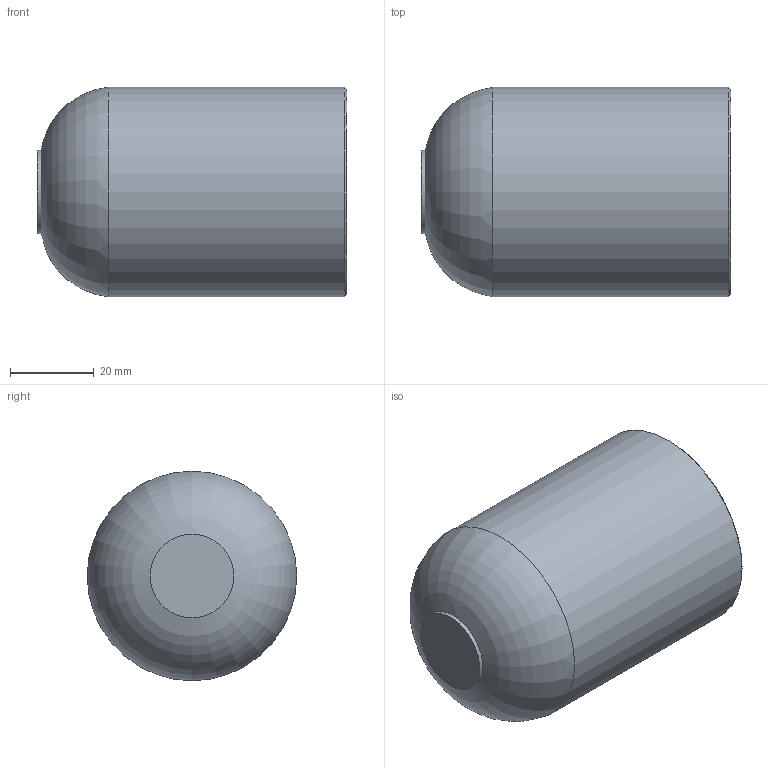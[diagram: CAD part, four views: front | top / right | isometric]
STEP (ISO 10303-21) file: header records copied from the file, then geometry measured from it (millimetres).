
FILE_DESCRIPTION(/* description */ ('Unknown'),/* implementation_level */ '2;1');
FILE_NAME(/* name */ 'CAP050H',/* time_stamp */ '2022-04-01T11:17:13+02:00',/* author */ ('Unknown'),/* organization */ ('Unknown'),/* preprocessor_version */ 'ST-DEVELOPER v18.1',/* originating_system */ 'Solid Edge',/* authorisation */ 'Unknown');
FILE_SCHEMA (('AUTOMOTIVE_DESIGN {1 0 10303 214 3 1 1}'));
Length unit declared in the file: millimetre
Products named in the file (1): CAP050H
Bounding box: 74 x 50 x 50 mm (x, y, z)
Volume: 69416.4 mm3; surface area: 21056.6 mm2
Topology: 1 solids, 1 shells, 9 faces, 15 edges, 9 vertices
Faces by surface type: plane 3, cylinder 3, torus 2, cone 1
Full cylindrical faces by diameter (mm): 20 x1, 36.2 x1, 50 x1
Entity records: 204 total; most frequent: DIRECTION 36, CARTESIAN_POINT 26, AXIS2_PLACEMENT_3D 18, ORIENTED_EDGE 16, EDGE_LOOP 16, FACE_BOUND 16, ADVANCED_FACE 9, EDGE_CURVE 8
